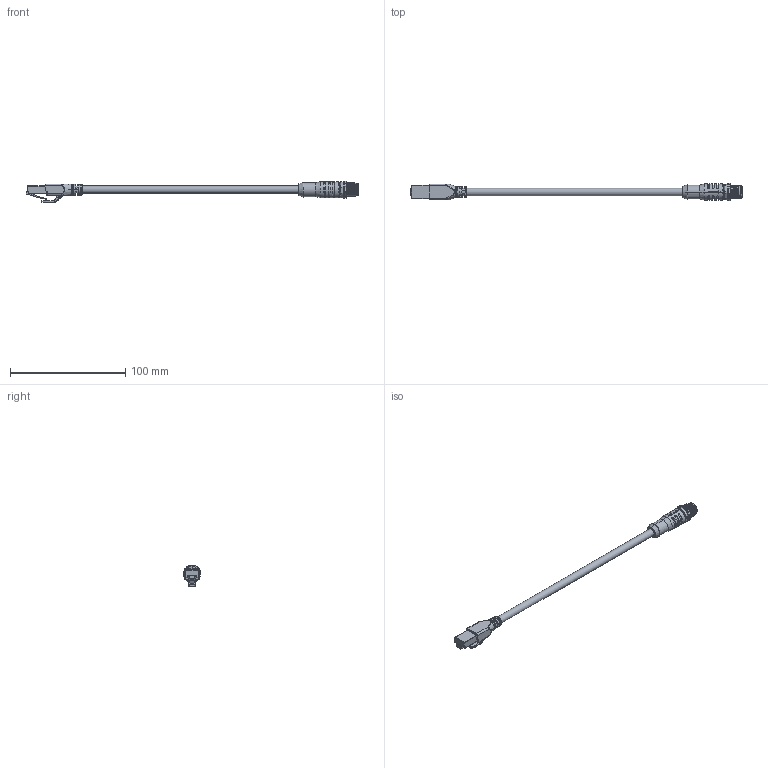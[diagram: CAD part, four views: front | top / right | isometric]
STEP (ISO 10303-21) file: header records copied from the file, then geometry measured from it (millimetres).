
FILE_DESCRIPTION (( 'STEP AP203' ), '1' );
FILE_NAME ('0CF463-XXX.STEP', '2024-11-11T05:29:41', ( 'L' ), ( '' ), 'SwSTEP 2.0', 'SolidWorks 2019', '' );
FILE_SCHEMA (( 'CONFIG_CONTROL_DESIGN' ));
Products named in the file (1): 0CF463-XXX
Bounding box: 287.8 x 15 x 18.95 mm (x, y, z)
Volume: 16498.8 mm3; surface area: 11202.5 mm2
Topology: 1 solids, 3 shells, 1254 faces, 3466 edges, 2258 vertices
Faces by surface type: plane 530, cylinder 397, bspline 194, cone 71, torus 46, sphere 16
Entity records: 63101 total; most frequent: CARTESIAN_POINT 33809, ORIENTED_EDGE 6932, DIRECTION 4969, EDGE_CURVE 3466, VERTEX_POINT 2258, AXIS2_PLACEMENT_3D 1766, VECTOR 1437, LINE 1437
